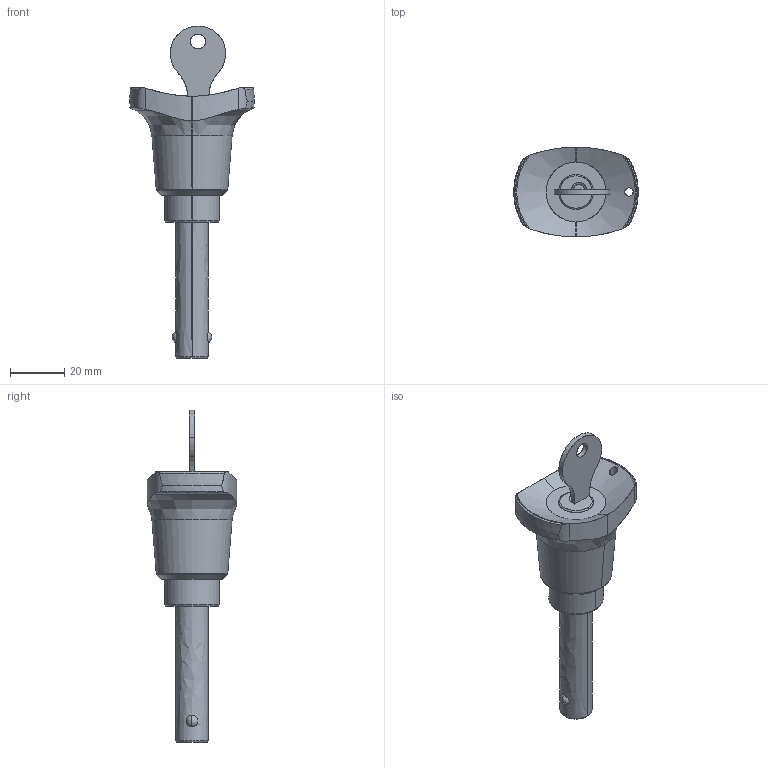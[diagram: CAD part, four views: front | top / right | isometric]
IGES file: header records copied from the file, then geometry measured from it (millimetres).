
Start section: SolidWorks IGES file using analytic representation for surfaces
Global section: file name: E:\新製品 作業用\14_SW2023(ver2023)\07_2025-08新製品(WHS)\b\blplk\@データ\blplk12040\BLPLK12040.igs; native system: SolidWorks 2023; preprocessor: SolidWorks 2023; author: ykomura; date: 250804.125347; units: millimetre
Bounding box: 45.9 x 33 x 122.1 mm (x, y, z)
Surface area: 9586.4 mm2 (no closed solid volume)
Topology: 0 solids, 0 shells, 79 faces, 1325 edges, 1324 vertices
Faces by surface type: revolution 44, bspline 35
